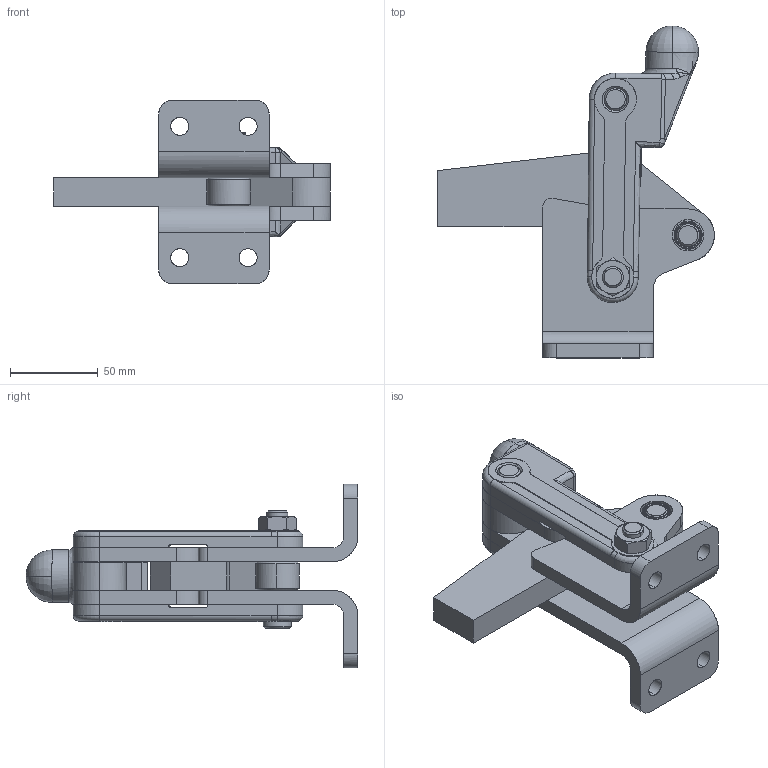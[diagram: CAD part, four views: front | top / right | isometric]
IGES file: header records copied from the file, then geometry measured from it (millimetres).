
Start section: Comment
Global section: file name: 72425.igs; native system:  By Spatial Corp.; preprocessor: XPlus PS/IGES 3.0; author: Author; organization: Title; date: 20050217.132801; units: inch
Bounding box: 158.03 x 189.5 x 105 mm (x, y, z)
Surface area: 120160.5 mm2 (no closed solid volume)
Topology: 0 solids, 0 shells, 435 faces, 2045 edges, 2033 vertices
Faces by surface type: revolution 305, extrusion 113, bspline 17
